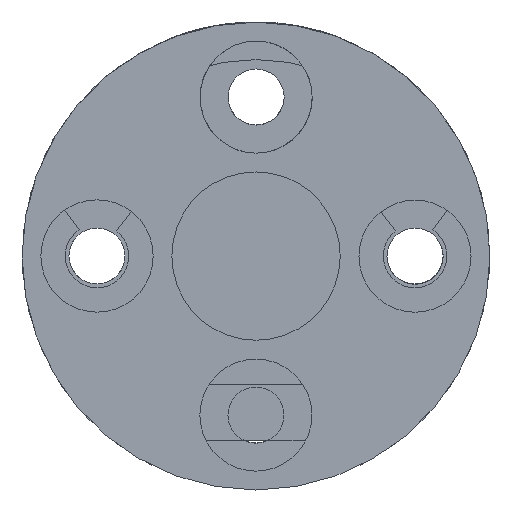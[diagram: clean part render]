
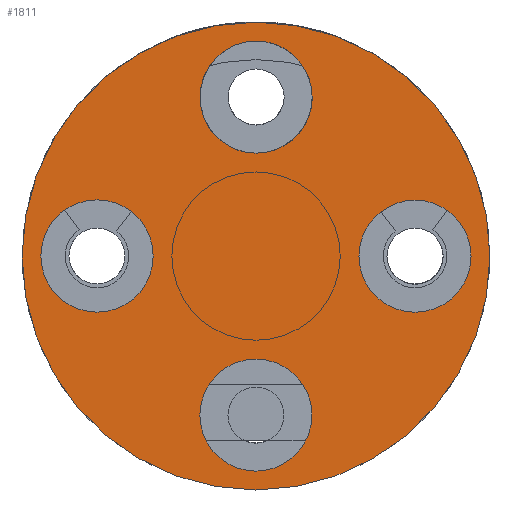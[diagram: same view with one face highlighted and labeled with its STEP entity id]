
A CAD part, front view. The second image highlights one B-rep face of the part: STEP entity #1811.
In plain terms, the highlighted planar face has unit normal (0, -1, 0).
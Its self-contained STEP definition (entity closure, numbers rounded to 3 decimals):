
#103 = CARTESIAN_POINT ( 'NONE',  ( 0., 0., -11.495 ) ) ;
#107 = CARTESIAN_POINT ( 'NONE',  ( 8.499, 0., 2.995 ) ) ;
#113 = CARTESIAN_POINT ( 'NONE',  ( 0., 0., -5.504 ) ) ;
#124 = CARTESIAN_POINT ( 'NONE',  ( 8.499, 0., -2.995 ) ) ;
#126 = CARTESIAN_POINT ( 'NONE',  ( 0., 0., 5.502 ) ) ;
#127 = CARTESIAN_POINT ( 'NONE',  ( -8.499, 0., 3.001 ) ) ;
#128 = CARTESIAN_POINT ( 'NONE',  ( -8.499, 0., -3.001 ) ) ;
#129 = CARTESIAN_POINT ( 'NONE',  ( 0., 0., 11.496 ) ) ;
#142 = CARTESIAN_POINT ( 'NONE',  ( 0., 0., 12.505 ) ) ;
#143 = CARTESIAN_POINT ( 'NONE',  ( 0., 0., -12.505 ) ) ;
#539 = DIRECTION ( 'NONE',  ( 0., 0., 1. ) ) ;
#540 = DIRECTION ( 'NONE',  ( 0., 1., 0. ) ) ;
#567 = CARTESIAN_POINT ( 'NONE',  ( 0., 0., 0. ) ) ;
#568 = PLANE ( 'NONE',  #5415 ) ;
#746 = VERTEX_POINT ( 'NONE', #107 ) ;
#749 = VERTEX_POINT ( 'NONE', #113 ) ;
#750 = VERTEX_POINT ( 'NONE', #103 ) ;
#754 = VERTEX_POINT ( 'NONE', #124 ) ;
#757 = VERTEX_POINT ( 'NONE', #126 ) ;
#758 = VERTEX_POINT ( 'NONE', #127 ) ;
#759 = VERTEX_POINT ( 'NONE', #128 ) ;
#760 = VERTEX_POINT ( 'NONE', #129 ) ;
#780 = VERTEX_POINT ( 'NONE', #143 ) ;
#781 = VERTEX_POINT ( 'NONE', #142 ) ;
#882 = EDGE_LOOP ( 'NONE', ( #5777, #5778 ) ) ;
#883 = EDGE_LOOP ( 'NONE', ( #5783, #5784 ) ) ;
#920 = EDGE_LOOP ( 'NONE', ( #5785, #5786 ) ) ;
#921 = EDGE_LOOP ( 'NONE', ( #5781, #5782 ) ) ;
#922 = EDGE_LOOP ( 'NONE', ( #5779, #5780 ) ) ;
#1811 = ADVANCED_FACE ( 'NONE', ( #6638, #6647, #6649, #6651, #6636 ), #568, .F. ) ;
#2075 = EDGE_CURVE ( 'NONE', #781, #780, #3205, .T. ) ;
#2088 = EDGE_CURVE ( 'NONE', #780, #781, #3215, .T. ) ;
#2093 = EDGE_CURVE ( 'NONE', #757, #760, #3221, .T. ) ;
#2094 = EDGE_CURVE ( 'NONE', #759, #758, #3222, .T. ) ;
#2095 = EDGE_CURVE ( 'NONE', #750, #749, #3223, .T. ) ;
#2096 = EDGE_CURVE ( 'NONE', #754, #746, #3225, .T. ) ;
#2138 = EDGE_CURVE ( 'NONE', #760, #757, #3285, .T. ) ;
#2140 = EDGE_CURVE ( 'NONE', #758, #759, #3287, .T. ) ;
#2143 = EDGE_CURVE ( 'NONE', #746, #754, #3292, .T. ) ;
#2349 = EDGE_CURVE ( 'NONE', #749, #750, #3397, .T. ) ;
#3205 = CIRCLE ( 'NONE', #5519, 12.505 ) ;
#3215 = CIRCLE ( 'NONE', #5527, 12.505 ) ;
#3221 = CIRCLE ( 'NONE', #5532, 2.997 ) ;
#3222 = CIRCLE ( 'NONE', #5535, 3.001 ) ;
#3223 = CIRCLE ( 'NONE', #5534, 2.995 ) ;
#3225 = CIRCLE ( 'NONE', #5536, 2.995 ) ;
#3285 = CIRCLE ( 'NONE', #5558, 2.997 ) ;
#3287 = CIRCLE ( 'NONE', #5559, 3.001 ) ;
#3292 = CIRCLE ( 'NONE', #5557, 2.995 ) ;
#3397 = CIRCLE ( 'NONE', #4251, 2.995 ) ;
#3761 = CARTESIAN_POINT ( 'NONE',  ( 0., 0., 0. ) ) ;
#3762 = DIRECTION ( 'NONE',  ( 0., 1., 0. ) ) ;
#3763 = DIRECTION ( 'NONE',  ( 0., 0., 1. ) ) ;
#3842 = CARTESIAN_POINT ( 'NONE',  ( 0., 0., 0. ) ) ;
#3844 = DIRECTION ( 'NONE',  ( 0., 1., 0. ) ) ;
#3845 = DIRECTION ( 'NONE',  ( 0., 0., 1. ) ) ;
#3854 = CARTESIAN_POINT ( 'NONE',  ( -8.499, 0., 0. ) ) ;
#3919 = CARTESIAN_POINT ( 'NONE',  ( 0., 0., 8.499 ) ) ;
#3921 = DIRECTION ( 'NONE',  ( 0., -1., 0. ) ) ;
#3922 = DIRECTION ( 'NONE',  ( 0., 0., -1. ) ) ;
#3924 = DIRECTION ( 'NONE',  ( 0., -1., 0. ) ) ;
#3925 = DIRECTION ( 'NONE',  ( 0., 0., -1. ) ) ;
#3926 = CARTESIAN_POINT ( 'NONE',  ( 0., 0., -8.499 ) ) ;
#3927 = DIRECTION ( 'NONE',  ( 0., -1., 0. ) ) ;
#3928 = DIRECTION ( 'NONE',  ( 0., 0., -1. ) ) ;
#3929 = CARTESIAN_POINT ( 'NONE',  ( 8.499, 0., 0. ) ) ;
#3930 = DIRECTION ( 'NONE',  ( 0., -1., 0. ) ) ;
#3931 = DIRECTION ( 'NONE',  ( 0., 0., -1. ) ) ;
#4044 = CARTESIAN_POINT ( 'NONE',  ( 0., 0., 8.499 ) ) ;
#4069 = CARTESIAN_POINT ( 'NONE',  ( 8.499, 0., 0. ) ) ;
#4070 = DIRECTION ( 'NONE',  ( 0., -1., 0. ) ) ;
#4071 = DIRECTION ( 'NONE',  ( 0., 0., -1. ) ) ;
#4072 = CARTESIAN_POINT ( 'NONE',  ( -8.499, 0., 0. ) ) ;
#4075 = DIRECTION ( 'NONE',  ( 0., -1., 0. ) ) ;
#4076 = DIRECTION ( 'NONE',  ( 0., 0., -1. ) ) ;
#4081 = DIRECTION ( 'NONE',  ( 0., -1., 0. ) ) ;
#4082 = DIRECTION ( 'NONE',  ( 0., 0., -1. ) ) ;
#4251 = AXIS2_PLACEMENT_3D ( 'NONE', #4514, #4522, #4523 ) ;
#4514 = CARTESIAN_POINT ( 'NONE',  ( 0., 0., -8.499 ) ) ;
#4522 = DIRECTION ( 'NONE',  ( 0., -1., 0. ) ) ;
#4523 = DIRECTION ( 'NONE',  ( 0., 0., -1. ) ) ;
#5415 = AXIS2_PLACEMENT_3D ( 'NONE', #567, #540, #539 ) ;
#5519 = AXIS2_PLACEMENT_3D ( 'NONE', #3761, #3762, #3763 ) ;
#5527 = AXIS2_PLACEMENT_3D ( 'NONE', #3842, #3844, #3845 ) ;
#5532 = AXIS2_PLACEMENT_3D ( 'NONE', #3919, #3921, #3922 ) ;
#5534 = AXIS2_PLACEMENT_3D ( 'NONE', #3926, #3927, #3928 ) ;
#5535 = AXIS2_PLACEMENT_3D ( 'NONE', #3854, #3924, #3925 ) ;
#5536 = AXIS2_PLACEMENT_3D ( 'NONE', #3929, #3930, #3931 ) ;
#5557 = AXIS2_PLACEMENT_3D ( 'NONE', #4069, #4081, #4082 ) ;
#5558 = AXIS2_PLACEMENT_3D ( 'NONE', #4044, #4070, #4071 ) ;
#5559 = AXIS2_PLACEMENT_3D ( 'NONE', #4072, #4075, #4076 ) ;
#5777 = ORIENTED_EDGE ( 'NONE', *, *, #2095, .F. ) ;
#5778 = ORIENTED_EDGE ( 'NONE', *, *, #2349, .F. ) ;
#5779 = ORIENTED_EDGE ( 'NONE', *, *, #2096, .F. ) ;
#5780 = ORIENTED_EDGE ( 'NONE', *, *, #2143, .F. ) ;
#5781 = ORIENTED_EDGE ( 'NONE', *, *, #2094, .F. ) ;
#5782 = ORIENTED_EDGE ( 'NONE', *, *, #2140, .F. ) ;
#5783 = ORIENTED_EDGE ( 'NONE', *, *, #2093, .F. ) ;
#5784 = ORIENTED_EDGE ( 'NONE', *, *, #2138, .F. ) ;
#5785 = ORIENTED_EDGE ( 'NONE', *, *, #2088, .F. ) ;
#5786 = ORIENTED_EDGE ( 'NONE', *, *, #2075, .F. ) ;
#6636 = FACE_OUTER_BOUND ( 'NONE', #920, .T. ) ;
#6638 = FACE_BOUND ( 'NONE', #882, .T. ) ;
#6647 = FACE_BOUND ( 'NONE', #922, .T. ) ;
#6649 = FACE_BOUND ( 'NONE', #921, .T. ) ;
#6651 = FACE_BOUND ( 'NONE', #883, .T. ) ;
